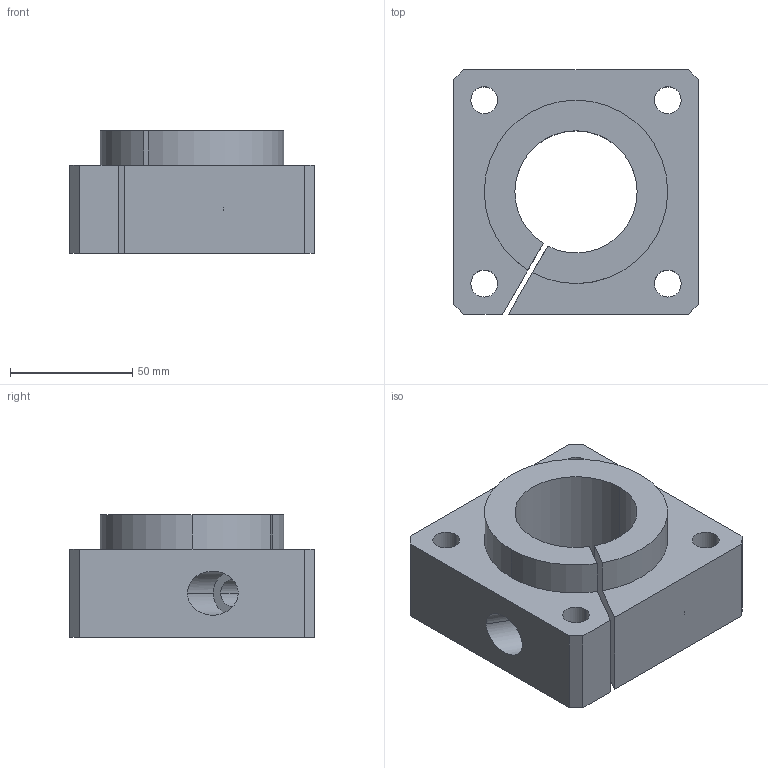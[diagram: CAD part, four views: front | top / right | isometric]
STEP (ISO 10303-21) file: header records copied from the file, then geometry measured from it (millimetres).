
FILE_DESCRIPTION (( 'STEP AP214' ), '1' );
FILE_NAME ('KFWB56-50.step', '2020-03-04T13:40:50', ( '' ), ( '' ), 'SwSTEP 2.0', 'SolidWorks 2019', '' );
FILE_SCHEMA (( 'AUTOMOTIVE_DESIGN' ));
Length unit declared in the file: millimetre
Products named in the file (1): KFWB56-50
Bounding box: 100 x 100 x 50 mm (x, y, z)
Volume: 297717.2 mm3; surface area: 50162.5 mm2
Topology: 1 solids, 1 shells, 37 faces, 100 edges, 65 vertices
Faces by surface type: cylinder 20, plane 15, cone 2
Entity records: 1238 total; most frequent: DIRECTION 210, CARTESIAN_POINT 207, ORIENTED_EDGE 196, EDGE_CURVE 98, AXIS2_PLACEMENT_3D 76, VERTEX_POINT 65, VECTOR 58, LINE 58
